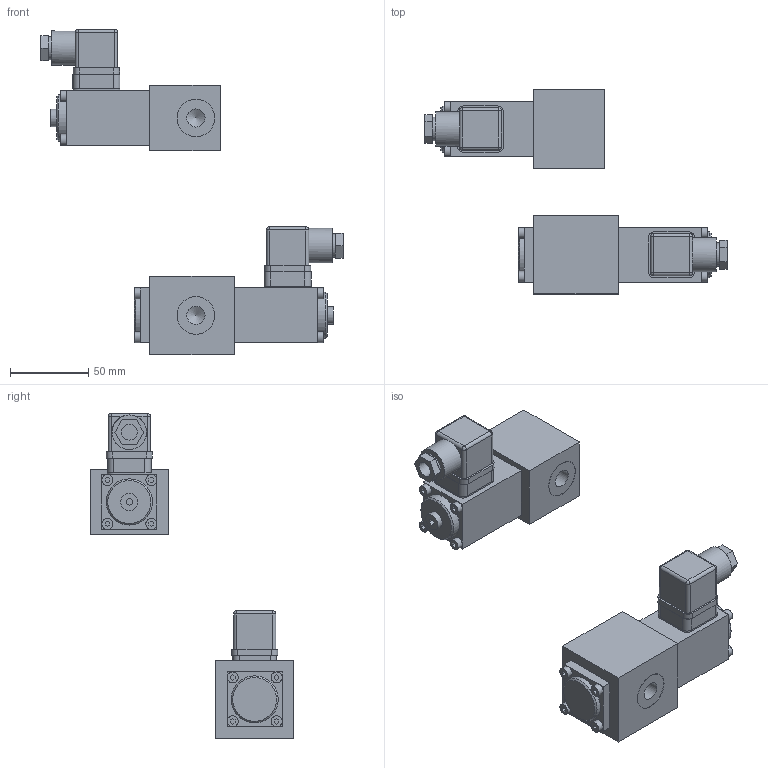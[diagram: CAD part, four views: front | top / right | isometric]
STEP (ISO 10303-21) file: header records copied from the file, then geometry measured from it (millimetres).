
FILE_DESCRIPTION(('Bauteilbeschreibung','HiCAD-Model','HiCAD-STEP-TRANSLATION','Bauteilbeschreibung'),'2;1');
FILE_NAME('C:/_EIGENE_DATEN/DXF_STEP/G_2204.STP','2008-10-15T10:10:33+00:00',('Konstrukteur'),('Konstrukteur Firma GmbH'),' HiCAD neXt 2007, Step 3.1.1212.3C ','HiCAD neXt 2007','confidential');
FILE_SCHEMA(('AUTOMOTIVE_DESIGN { 1 2 10303 214 0 1 1 1 }'));
Length unit declared in the file: millimetre
Products named in the file (38): G_2204; G_22041; EEE1E2BA; A3BC68B6; AAA22686; F134825D; CA9517B3; CA9517B30; DICHTUNG; AD54FEE3; IN6KTM4; IN6KTM40; IN6KTM41; IN6KTM42; IN6KTM43; D82DEE49; G_22040; A80A4BCF; AAA226860; F134825D0; CA9517B31; CA9517B32; DICHTUNG0; AD54FEE30; A9D06A16; D82DEE490; IN6KTM44; IN6KTM45; IN6KTM46; IN6KTM47; IN6KTM48; AA75327F; AA75327F0; IN6KTM49; IN6KTM410; IN6KTM411; IN6KTM412; IN6KTM413
Assembly tree (37 placements, depth 6):
  G_2204
    G_22041
      EEE1E2BA
        A3BC68B6
        AAA22686
          F134825D
          CA9517B3
          CA9517B30
            DICHTUNG
          AD54FEE3
        IN6KTM4
          IN6KTM40
          IN6KTM41
          IN6KTM42
          IN6KTM43
        D82DEE49
    G_22040
      A80A4BCF
        AAA226860
          F134825D0
          CA9517B31
          CA9517B32
            DICHTUNG0
          AD54FEE30
        A9D06A16
        D82DEE490
        IN6KTM44
          IN6KTM45
          IN6KTM46
          IN6KTM47
          IN6KTM48
        AA75327F
        AA75327F0
          IN6KTM49
            IN6KTM410
            IN6KTM411
            IN6KTM412
            IN6KTM413
Bounding box: 193 x 130 x 207.5 mm (x, y, z)
Volume: 435091.6 mm3; surface area: 91623.2 mm2
Topology: 31 solids, 31 shells, 481 faces, 1087 edges, 723 vertices
Faces by surface type: plane 319, cylinder 141, cone 11, sphere 8, torus 2
Full cylindrical faces by diameter (mm): 1.5 x6, 2.9 x2, 3 x6, 4 x14, 4.5 x12, 6.8 x2, 7 x12, 8 x6, 10 x2, 11 x2, 11.6 x4, 12 x2, 12.5 x2, 15 x2, 22 x2, 24 x4, 29.5 x2, 30 x1, 32 x2
Entity records: 13506 total; most frequent: CARTESIAN_POINT 2383, DIRECTION 2322, ORIENTED_EDGE 1850, EDGE_CURVE 925, AXIS2_PLACEMENT_3D 844, EDGE_LOOP 678, VERTEX_POINT 671, LINE 634
